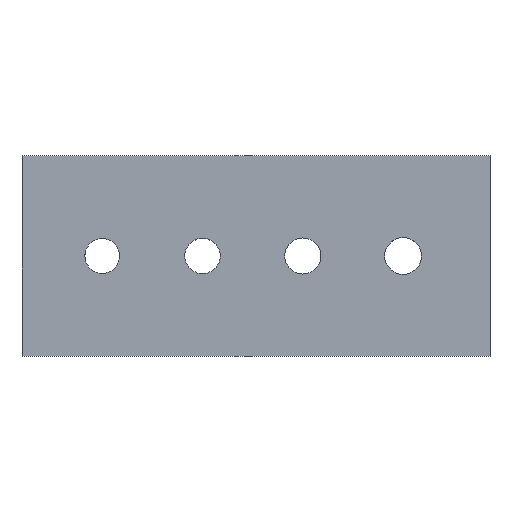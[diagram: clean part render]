
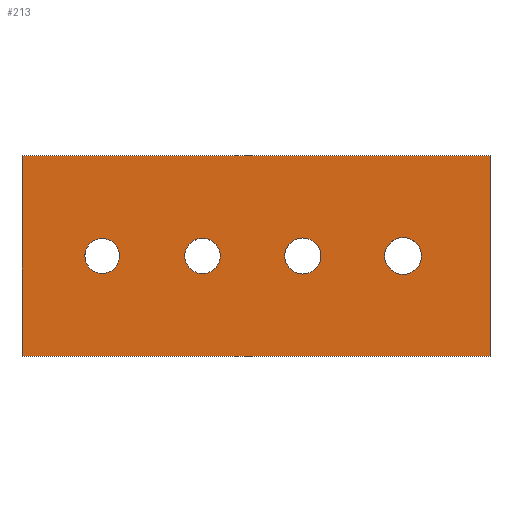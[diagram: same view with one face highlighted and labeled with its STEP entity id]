
A CAD part, top view. The second image highlights one B-rep face of the part: STEP entity #213.
In plain terms, the highlighted planar face has unit normal (0, 0, 1).
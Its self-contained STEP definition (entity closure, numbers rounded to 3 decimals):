
#24 = VERTEX_POINT('',#25);
#25 = CARTESIAN_POINT('',(0.,0.,6.));
#32 = PLANE('',#33);
#33 = AXIS2_PLACEMENT_3D('',#34,#35,#36);
#34 = CARTESIAN_POINT('',(0.,0.,0.));
#35 = DIRECTION('',(1.,0.,-0.));
#36 = DIRECTION('',(0.,0.,1.));
#44 = PLANE('',#45);
#45 = AXIS2_PLACEMENT_3D('',#46,#47,#48);
#46 = CARTESIAN_POINT('',(0.,0.,0.));
#47 = DIRECTION('',(-0.,1.,0.));
#48 = DIRECTION('',(0.,0.,1.));
#85 = VERTEX_POINT('',#86);
#86 = CARTESIAN_POINT('',(0.,30.,6.));
#100 = PLANE('',#101);
#101 = AXIS2_PLACEMENT_3D('',#102,#103,#104);
#102 = CARTESIAN_POINT('',(0.,30.,0.));
#103 = DIRECTION('',(-0.,1.,0.));
#104 = DIRECTION('',(0.,0.,1.));
#112 = EDGE_CURVE('',#24,#85,#113,.T.);
#113 = SURFACE_CURVE('',#114,(#118,#125),.PCURVE_S1.);
#114 = LINE('',#115,#116);
#115 = CARTESIAN_POINT('',(0.,0.,6.));
#116 = VECTOR('',#117,1.);
#117 = DIRECTION('',(-0.,1.,0.));
#118 = PCURVE('',#32,#119);
#119 = DEFINITIONAL_REPRESENTATION('',(#120),#124);
#120 = LINE('',#121,#122);
#121 = CARTESIAN_POINT('',(6.,0.));
#122 = VECTOR('',#123,1.);
#123 = DIRECTION('',(0.,-1.));
#124 = ( GEOMETRIC_REPRESENTATION_CONTEXT(2) 
PARAMETRIC_REPRESENTATION_CONTEXT() REPRESENTATION_CONTEXT('2D SPACE',''
  ) );
#125 = PCURVE('',#126,#131);
#126 = PLANE('',#127);
#127 = AXIS2_PLACEMENT_3D('',#128,#129,#130);
#128 = CARTESIAN_POINT('',(0.,0.,6.));
#129 = DIRECTION('',(0.,0.,1.));
#130 = DIRECTION('',(1.,0.,-0.));
#131 = DEFINITIONAL_REPRESENTATION('',(#132),#136);
#132 = LINE('',#133,#134);
#133 = CARTESIAN_POINT('',(0.,0.));
#134 = VECTOR('',#135,1.);
#135 = DIRECTION('',(0.,1.));
#136 = ( GEOMETRIC_REPRESENTATION_CONTEXT(2) 
PARAMETRIC_REPRESENTATION_CONTEXT() REPRESENTATION_CONTEXT('2D SPACE',''
  ) );
#165 = EDGE_CURVE('',#24,#166,#168,.T.);
#166 = VERTEX_POINT('',#167);
#167 = CARTESIAN_POINT('',(70.,0.,6.));
#168 = SURFACE_CURVE('',#169,(#173,#180),.PCURVE_S1.);
#169 = LINE('',#170,#171);
#170 = CARTESIAN_POINT('',(0.,0.,6.));
#171 = VECTOR('',#172,1.);
#172 = DIRECTION('',(1.,0.,-0.));
#173 = PCURVE('',#44,#174);
#174 = DEFINITIONAL_REPRESENTATION('',(#175),#179);
#175 = LINE('',#176,#177);
#176 = CARTESIAN_POINT('',(6.,0.));
#177 = VECTOR('',#178,1.);
#178 = DIRECTION('',(0.,1.));
#179 = ( GEOMETRIC_REPRESENTATION_CONTEXT(2) 
PARAMETRIC_REPRESENTATION_CONTEXT() REPRESENTATION_CONTEXT('2D SPACE',''
  ) );
#180 = PCURVE('',#126,#181);
#181 = DEFINITIONAL_REPRESENTATION('',(#182),#186);
#182 = LINE('',#183,#184);
#183 = CARTESIAN_POINT('',(0.,0.));
#184 = VECTOR('',#185,1.);
#185 = DIRECTION('',(1.,0.));
#186 = ( GEOMETRIC_REPRESENTATION_CONTEXT(2) 
PARAMETRIC_REPRESENTATION_CONTEXT() REPRESENTATION_CONTEXT('2D SPACE',''
  ) );
#202 = PLANE('',#203);
#203 = AXIS2_PLACEMENT_3D('',#204,#205,#206);
#204 = CARTESIAN_POINT('',(70.,0.,0.));
#205 = DIRECTION('',(1.,0.,-0.));
#206 = DIRECTION('',(0.,0.,1.));
#213 = ADVANCED_FACE('',(#214,#262,#293,#324,#355),#126,.T.);
#214 = FACE_BOUND('',#215,.T.);
#215 = EDGE_LOOP('',(#216,#217,#218,#241));
#216 = ORIENTED_EDGE('',*,*,#112,.F.);
#217 = ORIENTED_EDGE('',*,*,#165,.T.);
#218 = ORIENTED_EDGE('',*,*,#219,.T.);
#219 = EDGE_CURVE('',#166,#220,#222,.T.);
#220 = VERTEX_POINT('',#221);
#221 = CARTESIAN_POINT('',(70.,30.,6.));
#222 = SURFACE_CURVE('',#223,(#227,#234),.PCURVE_S1.);
#223 = LINE('',#224,#225);
#224 = CARTESIAN_POINT('',(70.,0.,6.));
#225 = VECTOR('',#226,1.);
#226 = DIRECTION('',(-0.,1.,0.));
#227 = PCURVE('',#126,#228);
#228 = DEFINITIONAL_REPRESENTATION('',(#229),#233);
#229 = LINE('',#230,#231);
#230 = CARTESIAN_POINT('',(70.,0.));
#231 = VECTOR('',#232,1.);
#232 = DIRECTION('',(0.,1.));
#233 = ( GEOMETRIC_REPRESENTATION_CONTEXT(2) 
PARAMETRIC_REPRESENTATION_CONTEXT() REPRESENTATION_CONTEXT('2D SPACE',''
  ) );
#234 = PCURVE('',#202,#235);
#235 = DEFINITIONAL_REPRESENTATION('',(#236),#240);
#236 = LINE('',#237,#238);
#237 = CARTESIAN_POINT('',(6.,0.));
#238 = VECTOR('',#239,1.);
#239 = DIRECTION('',(0.,-1.));
#240 = ( GEOMETRIC_REPRESENTATION_CONTEXT(2) 
PARAMETRIC_REPRESENTATION_CONTEXT() REPRESENTATION_CONTEXT('2D SPACE',''
  ) );
#241 = ORIENTED_EDGE('',*,*,#242,.F.);
#242 = EDGE_CURVE('',#85,#220,#243,.T.);
#243 = SURFACE_CURVE('',#244,(#248,#255),.PCURVE_S1.);
#244 = LINE('',#245,#246);
#245 = CARTESIAN_POINT('',(0.,30.,6.));
#246 = VECTOR('',#247,1.);
#247 = DIRECTION('',(1.,0.,-0.));
#248 = PCURVE('',#126,#249);
#249 = DEFINITIONAL_REPRESENTATION('',(#250),#254);
#250 = LINE('',#251,#252);
#251 = CARTESIAN_POINT('',(0.,30.));
#252 = VECTOR('',#253,1.);
#253 = DIRECTION('',(1.,0.));
#254 = ( GEOMETRIC_REPRESENTATION_CONTEXT(2) 
PARAMETRIC_REPRESENTATION_CONTEXT() REPRESENTATION_CONTEXT('2D SPACE',''
  ) );
#255 = PCURVE('',#100,#256);
#256 = DEFINITIONAL_REPRESENTATION('',(#257),#261);
#257 = LINE('',#258,#259);
#258 = CARTESIAN_POINT('',(6.,0.));
#259 = VECTOR('',#260,1.);
#260 = DIRECTION('',(0.,1.));
#261 = ( GEOMETRIC_REPRESENTATION_CONTEXT(2) 
PARAMETRIC_REPRESENTATION_CONTEXT() REPRESENTATION_CONTEXT('2D SPACE',''
  ) );
#262 = FACE_BOUND('',#263,.T.);
#263 = EDGE_LOOP('',(#264));
#264 = ORIENTED_EDGE('',*,*,#265,.F.);
#265 = EDGE_CURVE('',#266,#266,#268,.T.);
#266 = VERTEX_POINT('',#267);
#267 = CARTESIAN_POINT('',(14.6,15.,6.));
#268 = SURFACE_CURVE('',#269,(#274,#281),.PCURVE_S1.);
#269 = CIRCLE('',#270,2.6);
#270 = AXIS2_PLACEMENT_3D('',#271,#272,#273);
#271 = CARTESIAN_POINT('',(12.,15.,6.));
#272 = DIRECTION('',(0.,0.,1.));
#273 = DIRECTION('',(1.,0.,-0.));
#274 = PCURVE('',#126,#275);
#275 = DEFINITIONAL_REPRESENTATION('',(#276),#280);
#276 = CIRCLE('',#277,2.6);
#277 = AXIS2_PLACEMENT_2D('',#278,#279);
#278 = CARTESIAN_POINT('',(12.,15.));
#279 = DIRECTION('',(1.,0.));
#280 = ( GEOMETRIC_REPRESENTATION_CONTEXT(2) 
PARAMETRIC_REPRESENTATION_CONTEXT() REPRESENTATION_CONTEXT('2D SPACE',''
  ) );
#281 = PCURVE('',#282,#287);
#282 = CYLINDRICAL_SURFACE('',#283,2.6);
#283 = AXIS2_PLACEMENT_3D('',#284,#285,#286);
#284 = CARTESIAN_POINT('',(12.,15.,-1.));
#285 = DIRECTION('',(0.,0.,1.));
#286 = DIRECTION('',(1.,0.,-0.));
#287 = DEFINITIONAL_REPRESENTATION('',(#288),#292);
#288 = LINE('',#289,#290);
#289 = CARTESIAN_POINT('',(0.,7.));
#290 = VECTOR('',#291,1.);
#291 = DIRECTION('',(1.,0.));
#292 = ( GEOMETRIC_REPRESENTATION_CONTEXT(2) 
PARAMETRIC_REPRESENTATION_CONTEXT() REPRESENTATION_CONTEXT('2D SPACE',''
  ) );
#293 = FACE_BOUND('',#294,.T.);
#294 = EDGE_LOOP('',(#295));
#295 = ORIENTED_EDGE('',*,*,#296,.F.);
#296 = EDGE_CURVE('',#297,#297,#299,.T.);
#297 = VERTEX_POINT('',#298);
#298 = CARTESIAN_POINT('',(29.65,15.,6.));
#299 = SURFACE_CURVE('',#300,(#305,#312),.PCURVE_S1.);
#300 = CIRCLE('',#301,2.65);
#301 = AXIS2_PLACEMENT_3D('',#302,#303,#304);
#302 = CARTESIAN_POINT('',(27.,15.,6.));
#303 = DIRECTION('',(0.,0.,1.));
#304 = DIRECTION('',(1.,0.,-0.));
#305 = PCURVE('',#126,#306);
#306 = DEFINITIONAL_REPRESENTATION('',(#307),#311);
#307 = CIRCLE('',#308,2.65);
#308 = AXIS2_PLACEMENT_2D('',#309,#310);
#309 = CARTESIAN_POINT('',(27.,15.));
#310 = DIRECTION('',(1.,0.));
#311 = ( GEOMETRIC_REPRESENTATION_CONTEXT(2) 
PARAMETRIC_REPRESENTATION_CONTEXT() REPRESENTATION_CONTEXT('2D SPACE',''
  ) );
#312 = PCURVE('',#313,#318);
#313 = CYLINDRICAL_SURFACE('',#314,2.65);
#314 = AXIS2_PLACEMENT_3D('',#315,#316,#317);
#315 = CARTESIAN_POINT('',(27.,15.,-1.));
#316 = DIRECTION('',(0.,0.,1.));
#317 = DIRECTION('',(1.,0.,-0.));
#318 = DEFINITIONAL_REPRESENTATION('',(#319),#323);
#319 = LINE('',#320,#321);
#320 = CARTESIAN_POINT('',(0.,7.));
#321 = VECTOR('',#322,1.);
#322 = DIRECTION('',(1.,0.));
#323 = ( GEOMETRIC_REPRESENTATION_CONTEXT(2) 
PARAMETRIC_REPRESENTATION_CONTEXT() REPRESENTATION_CONTEXT('2D SPACE',''
  ) );
#324 = FACE_BOUND('',#325,.T.);
#325 = EDGE_LOOP('',(#326));
#326 = ORIENTED_EDGE('',*,*,#327,.F.);
#327 = EDGE_CURVE('',#328,#328,#330,.T.);
#328 = VERTEX_POINT('',#329);
#329 = CARTESIAN_POINT('',(44.7,15.,6.));
#330 = SURFACE_CURVE('',#331,(#336,#343),.PCURVE_S1.);
#331 = CIRCLE('',#332,2.7);
#332 = AXIS2_PLACEMENT_3D('',#333,#334,#335);
#333 = CARTESIAN_POINT('',(42.,15.,6.));
#334 = DIRECTION('',(0.,0.,1.));
#335 = DIRECTION('',(1.,0.,-0.));
#336 = PCURVE('',#126,#337);
#337 = DEFINITIONAL_REPRESENTATION('',(#338),#342);
#338 = CIRCLE('',#339,2.7);
#339 = AXIS2_PLACEMENT_2D('',#340,#341);
#340 = CARTESIAN_POINT('',(42.,15.));
#341 = DIRECTION('',(1.,0.));
#342 = ( GEOMETRIC_REPRESENTATION_CONTEXT(2) 
PARAMETRIC_REPRESENTATION_CONTEXT() REPRESENTATION_CONTEXT('2D SPACE',''
  ) );
#343 = PCURVE('',#344,#349);
#344 = CYLINDRICAL_SURFACE('',#345,2.7);
#345 = AXIS2_PLACEMENT_3D('',#346,#347,#348);
#346 = CARTESIAN_POINT('',(42.,15.,-1.));
#347 = DIRECTION('',(0.,0.,1.));
#348 = DIRECTION('',(1.,0.,-0.));
#349 = DEFINITIONAL_REPRESENTATION('',(#350),#354);
#350 = LINE('',#351,#352);
#351 = CARTESIAN_POINT('',(0.,7.));
#352 = VECTOR('',#353,1.);
#353 = DIRECTION('',(1.,0.));
#354 = ( GEOMETRIC_REPRESENTATION_CONTEXT(2) 
PARAMETRIC_REPRESENTATION_CONTEXT() REPRESENTATION_CONTEXT('2D SPACE',''
  ) );
#355 = FACE_BOUND('',#356,.T.);
#356 = EDGE_LOOP('',(#357));
#357 = ORIENTED_EDGE('',*,*,#358,.F.);
#358 = EDGE_CURVE('',#359,#359,#361,.T.);
#359 = VERTEX_POINT('',#360);
#360 = CARTESIAN_POINT('',(59.75,15.,6.));
#361 = SURFACE_CURVE('',#362,(#367,#374),.PCURVE_S1.);
#362 = CIRCLE('',#363,2.75);
#363 = AXIS2_PLACEMENT_3D('',#364,#365,#366);
#364 = CARTESIAN_POINT('',(57.,15.,6.));
#365 = DIRECTION('',(0.,0.,1.));
#366 = DIRECTION('',(1.,0.,-0.));
#367 = PCURVE('',#126,#368);
#368 = DEFINITIONAL_REPRESENTATION('',(#369),#373);
#369 = CIRCLE('',#370,2.75);
#370 = AXIS2_PLACEMENT_2D('',#371,#372);
#371 = CARTESIAN_POINT('',(57.,15.));
#372 = DIRECTION('',(1.,0.));
#373 = ( GEOMETRIC_REPRESENTATION_CONTEXT(2) 
PARAMETRIC_REPRESENTATION_CONTEXT() REPRESENTATION_CONTEXT('2D SPACE',''
  ) );
#374 = PCURVE('',#375,#380);
#375 = CYLINDRICAL_SURFACE('',#376,2.75);
#376 = AXIS2_PLACEMENT_3D('',#377,#378,#379);
#377 = CARTESIAN_POINT('',(57.,15.,-1.));
#378 = DIRECTION('',(0.,0.,1.));
#379 = DIRECTION('',(1.,0.,-0.));
#380 = DEFINITIONAL_REPRESENTATION('',(#381),#385);
#381 = LINE('',#382,#383);
#382 = CARTESIAN_POINT('',(0.,7.));
#383 = VECTOR('',#384,1.);
#384 = DIRECTION('',(1.,0.));
#385 = ( GEOMETRIC_REPRESENTATION_CONTEXT(2) 
PARAMETRIC_REPRESENTATION_CONTEXT() REPRESENTATION_CONTEXT('2D SPACE',''
  ) );
